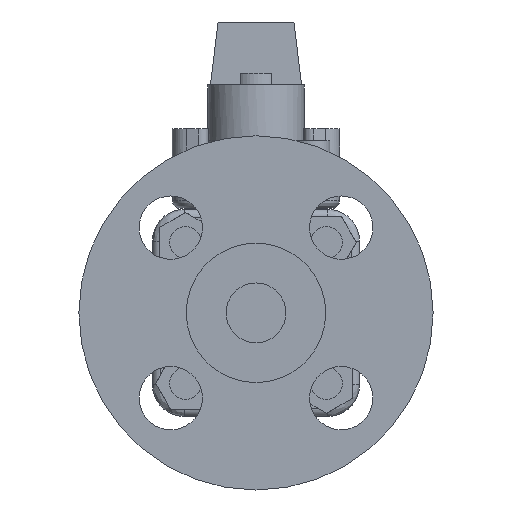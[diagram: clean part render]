
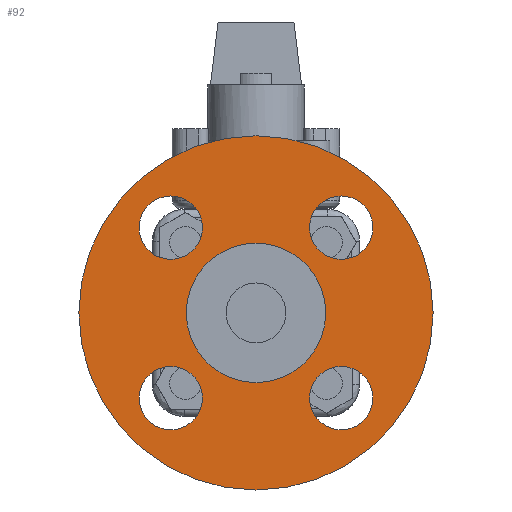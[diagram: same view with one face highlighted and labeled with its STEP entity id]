
A CAD part, left-side view. The second image highlights one B-rep face of the part: STEP entity #92.
In plain terms, the highlighted planar face has unit normal (-1, 0, 0).
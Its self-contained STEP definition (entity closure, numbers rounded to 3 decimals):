
#92=ADVANCED_FACE('',(#472,#473,#474,#475,#476,#477),#471,.T.);
#471=PLANE('',#2621);
#472=FACE_OUTER_BOUND('',#2622,.T.);
#473=FACE_BOUND('',#2623,.T.);
#474=FACE_BOUND('',#2624,.T.);
#475=FACE_BOUND('',#2625,.T.);
#476=FACE_BOUND('',#2626,.T.);
#477=FACE_BOUND('',#2627,.T.);
#2618=CARTESIAN_POINT('',(-54.7,-86.99,-98.9));
#2619=DIRECTION('',(-1.,0.,0.));
#2620=DIRECTION('',(0.,0.,1.));
#2621=AXIS2_PLACEMENT_3D('',#2618,#2619,#2620);
#2622=EDGE_LOOP('',(#4212,#4213));
#2623=EDGE_LOOP('',(#4214,#4215));
#2624=EDGE_LOOP('',(#4216,#4217));
#2625=EDGE_LOOP('',(#4218,#4219));
#2626=EDGE_LOOP('',(#4220,#4221));
#2627=EDGE_LOOP('',(#4222,#4223));
#4212=ORIENTED_EDGE('',*,*,#5366,.T.);
#4213=ORIENTED_EDGE('',*,*,#5367,.T.);
#4214=ORIENTED_EDGE('',*,*,#5368,.F.);
#4215=ORIENTED_EDGE('',*,*,#5369,.F.);
#4216=ORIENTED_EDGE('',*,*,#5370,.F.);
#4217=ORIENTED_EDGE('',*,*,#5371,.F.);
#4218=ORIENTED_EDGE('',*,*,#5372,.F.);
#4219=ORIENTED_EDGE('',*,*,#5373,.F.);
#4220=ORIENTED_EDGE('',*,*,#5374,.F.);
#4221=ORIENTED_EDGE('',*,*,#5375,.F.);
#4222=ORIENTED_EDGE('',*,*,#5376,.F.);
#4223=ORIENTED_EDGE('',*,*,#5377,.F.);
#5366=EDGE_CURVE('',#6679,#6680,#6681,.T.);
#5367=EDGE_CURVE('',#6680,#6679,#6687,.T.);
#5368=EDGE_CURVE('',#6693,#6694,#6695,.T.);
#5369=EDGE_CURVE('',#6694,#6693,#6701,.T.);
#5370=EDGE_CURVE('',#6707,#6708,#6709,.T.);
#5371=EDGE_CURVE('',#6708,#6707,#6715,.T.);
#5372=EDGE_CURVE('',#6721,#6722,#6723,.T.);
#5373=EDGE_CURVE('',#6722,#6721,#6729,.T.);
#5374=EDGE_CURVE('',#6735,#6736,#6737,.T.);
#5375=EDGE_CURVE('',#6736,#6735,#6743,.T.);
#5376=EDGE_CURVE('',#6749,#6750,#6751,.T.);
#5377=EDGE_CURVE('',#6750,#6749,#6757,.T.);
#6679=VERTEX_POINT('',#10253);
#6680=VERTEX_POINT('',#10254);
#6681=CIRCLE('',#10258,44.45);
#6687=CIRCLE('',#10262,44.45);
#6693=VERTEX_POINT('',#10263);
#6694=VERTEX_POINT('',#10264);
#6695=CIRCLE('',#10268,7.95);
#6701=CIRCLE('',#10272,7.95);
#6707=VERTEX_POINT('',#10273);
#6708=VERTEX_POINT('',#10274);
#6709=CIRCLE('',#10278,7.95);
#6715=CIRCLE('',#10282,7.95);
#6721=VERTEX_POINT('',#10283);
#6722=VERTEX_POINT('',#10284);
#6723=CIRCLE('',#10288,7.95);
#6729=CIRCLE('',#10292,7.95);
#6735=VERTEX_POINT('',#10293);
#6736=VERTEX_POINT('',#10294);
#6737=CIRCLE('',#10298,7.95);
#6743=CIRCLE('',#10302,7.95);
#6749=VERTEX_POINT('',#10303);
#6750=VERTEX_POINT('',#10304);
#6751=CIRCLE('',#10308,17.5);
#6757=CIRCLE('',#10312,17.5);
#10253=CARTESIAN_POINT('',(-54.7,0.,44.45));
#10254=CARTESIAN_POINT('',(-54.7,0.,-44.45));
#10255=CARTESIAN_POINT('',(-54.7,0.,0.));
#10256=DIRECTION('',(-1.,0.,0.));
#10257=DIRECTION('',(0.,0.,1.));
#10258=AXIS2_PLACEMENT_3D('',#10255,#10256,#10257);
#10259=CARTESIAN_POINT('',(-54.7,0.,0.));
#10260=DIRECTION('',(-1.,0.,0.));
#10261=DIRECTION('',(0.,0.,1.));
#10262=AXIS2_PLACEMENT_3D('',#10259,#10260,#10261);
#10263=CARTESIAN_POINT('',(-54.7,21.39,-13.44));
#10264=CARTESIAN_POINT('',(-54.7,21.39,-29.34));
#10265=CARTESIAN_POINT('',(-54.7,21.39,-21.39));
#10266=DIRECTION('',(-1.,0.,0.));
#10267=DIRECTION('',(0.,0.,-1.));
#10268=AXIS2_PLACEMENT_3D('',#10265,#10266,#10267);
#10269=CARTESIAN_POINT('',(-54.7,21.39,-21.39));
#10270=DIRECTION('',(-1.,0.,0.));
#10271=DIRECTION('',(0.,0.,-1.));
#10272=AXIS2_PLACEMENT_3D('',#10269,#10270,#10271);
#10273=CARTESIAN_POINT('',(-54.7,-21.39,-29.34));
#10274=CARTESIAN_POINT('',(-54.7,-21.39,-13.44));
#10275=CARTESIAN_POINT('',(-54.7,-21.39,-21.39));
#10276=DIRECTION('',(-1.,0.,0.));
#10277=DIRECTION('',(0.,0.,1.));
#10278=AXIS2_PLACEMENT_3D('',#10275,#10276,#10277);
#10279=CARTESIAN_POINT('',(-54.7,-21.39,-21.39));
#10280=DIRECTION('',(-1.,0.,0.));
#10281=DIRECTION('',(0.,0.,1.));
#10282=AXIS2_PLACEMENT_3D('',#10279,#10280,#10281);
#10283=CARTESIAN_POINT('',(-54.7,-21.39,29.34));
#10284=CARTESIAN_POINT('',(-54.7,-21.39,13.44));
#10285=CARTESIAN_POINT('',(-54.7,-21.39,21.39));
#10286=DIRECTION('',(-1.,0.,0.));
#10287=DIRECTION('',(0.,0.,-1.));
#10288=AXIS2_PLACEMENT_3D('',#10285,#10286,#10287);
#10289=CARTESIAN_POINT('',(-54.7,-21.39,21.39));
#10290=DIRECTION('',(-1.,0.,0.));
#10291=DIRECTION('',(0.,0.,-1.));
#10292=AXIS2_PLACEMENT_3D('',#10289,#10290,#10291);
#10293=CARTESIAN_POINT('',(-54.7,21.39,13.44));
#10294=CARTESIAN_POINT('',(-54.7,21.39,29.34));
#10295=CARTESIAN_POINT('',(-54.7,21.39,21.39));
#10296=DIRECTION('',(-1.,0.,0.));
#10297=DIRECTION('',(0.,0.,1.));
#10298=AXIS2_PLACEMENT_3D('',#10295,#10296,#10297);
#10299=CARTESIAN_POINT('',(-54.7,21.39,21.39));
#10300=DIRECTION('',(-1.,0.,0.));
#10301=DIRECTION('',(0.,0.,1.));
#10302=AXIS2_PLACEMENT_3D('',#10299,#10300,#10301);
#10303=CARTESIAN_POINT('',(-54.7,0.,-17.5));
#10304=CARTESIAN_POINT('',(-54.7,0.,17.5));
#10305=CARTESIAN_POINT('',(-54.7,0.,0.));
#10306=DIRECTION('',(-1.,0.,0.));
#10307=DIRECTION('',(0.,0.,1.));
#10308=AXIS2_PLACEMENT_3D('',#10305,#10306,#10307);
#10309=CARTESIAN_POINT('',(-54.7,0.,0.));
#10310=DIRECTION('',(-1.,0.,0.));
#10311=DIRECTION('',(0.,0.,1.));
#10312=AXIS2_PLACEMENT_3D('',#10309,#10310,#10311);
